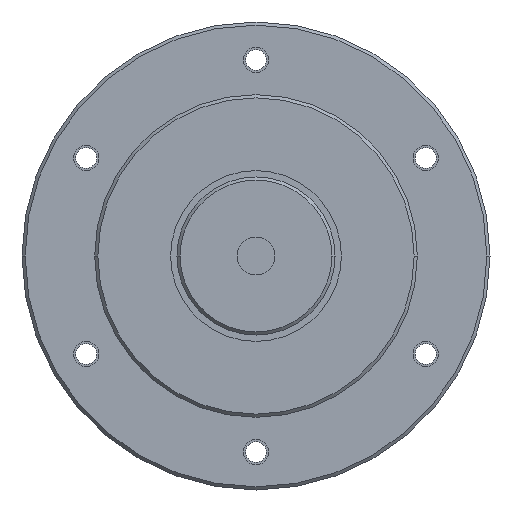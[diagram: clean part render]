
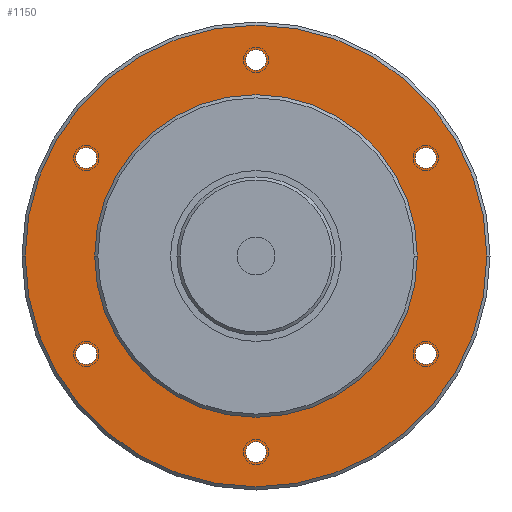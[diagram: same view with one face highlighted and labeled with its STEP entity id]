
A CAD part, front view. The second image highlights one B-rep face of the part: STEP entity #1150.
In plain terms, the highlighted planar face has unit normal (0, -1, 0).
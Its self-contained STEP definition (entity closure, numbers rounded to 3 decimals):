
#173=CARTESIAN_POINT('',(0.,33.1,0.));
#174=DIRECTION('',(0.,-1.,0.));
#175=DIRECTION('',(1.,0.,0.));
#176=AXIS2_PLACEMENT_3D('',#173,#174,#175);
#178=CARTESIAN_POINT('',(0.,33.1,0.));
#179=DIRECTION('',(0.,1.,0.));
#180=DIRECTION('',(1.,0.,0.));
#181=AXIS2_PLACEMENT_3D('',#178,#179,#180);
#183=CARTESIAN_POINT('',(0.,33.1,-31.));
#184=DIRECTION('',(0.,1.,0.));
#185=DIRECTION('',(-1.,0.,0.));
#186=AXIS2_PLACEMENT_3D('',#183,#184,#185);
#188=CARTESIAN_POINT('',(0.,33.1,-31.));
#189=DIRECTION('',(0.,1.,0.));
#190=DIRECTION('',(1.,0.,0.));
#191=AXIS2_PLACEMENT_3D('',#188,#189,#190);
#193=CARTESIAN_POINT('',(26.847,33.1,-15.5));
#194=DIRECTION('',(0.,1.,0.));
#195=DIRECTION('',(0.5,0.,0.866));
#196=AXIS2_PLACEMENT_3D('',#193,#194,#195);
#198=CARTESIAN_POINT('',(26.847,33.1,-15.5));
#199=DIRECTION('',(0.,1.,0.));
#200=DIRECTION('',(-0.5,0.,-0.866));
#201=AXIS2_PLACEMENT_3D('',#198,#199,#200);
#203=CARTESIAN_POINT('',(26.847,33.1,15.5));
#204=DIRECTION('',(0.,1.,0.));
#205=DIRECTION('',(-0.5,0.,0.866));
#206=AXIS2_PLACEMENT_3D('',#203,#204,#205);
#208=CARTESIAN_POINT('',(26.847,33.1,15.5));
#209=DIRECTION('',(0.,1.,0.));
#210=DIRECTION('',(0.5,0.,-0.866));
#211=AXIS2_PLACEMENT_3D('',#208,#209,#210);
#213=CARTESIAN_POINT('',(0.,33.1,31.));
#214=DIRECTION('',(0.,1.,0.));
#215=DIRECTION('',(-1.,0.,0.));
#216=AXIS2_PLACEMENT_3D('',#213,#214,#215);
#218=CARTESIAN_POINT('',(0.,33.1,31.));
#219=DIRECTION('',(0.,1.,0.));
#220=DIRECTION('',(1.,0.,0.));
#221=AXIS2_PLACEMENT_3D('',#218,#219,#220);
#223=CARTESIAN_POINT('',(-26.847,33.1,15.5));
#224=DIRECTION('',(0.,1.,0.));
#225=DIRECTION('',(-0.5,0.,-0.866));
#226=AXIS2_PLACEMENT_3D('',#223,#224,#225);
#228=CARTESIAN_POINT('',(-26.847,33.1,15.5));
#229=DIRECTION('',(0.,1.,0.));
#230=DIRECTION('',(0.5,0.,0.866));
#231=AXIS2_PLACEMENT_3D('',#228,#229,#230);
#233=CARTESIAN_POINT('',(-26.847,33.1,-15.5));
#234=DIRECTION('',(0.,1.,0.));
#235=DIRECTION('',(0.5,0.,-0.866));
#236=AXIS2_PLACEMENT_3D('',#233,#234,#235);
#238=CARTESIAN_POINT('',(-26.847,33.1,-15.5));
#239=DIRECTION('',(0.,1.,0.));
#240=DIRECTION('',(-0.5,0.,0.866));
#241=AXIS2_PLACEMENT_3D('',#238,#239,#240);
#243=CARTESIAN_POINT('',(0.,33.1,0.));
#244=DIRECTION('',(0.,1.,0.));
#245=DIRECTION('',(1.,0.,0.));
#246=AXIS2_PLACEMENT_3D('',#243,#244,#245);
#248=CARTESIAN_POINT('',(0.,33.1,0.));
#249=DIRECTION('',(0.,1.,0.));
#250=DIRECTION('',(-1.,0.,0.));
#251=AXIS2_PLACEMENT_3D('',#248,#249,#250);
#665=CARTESIAN_POINT('',(25.5,33.1,0.));
#666=CARTESIAN_POINT('',(-25.5,33.1,0.));
#667=VERTEX_POINT('',#665);
#668=VERTEX_POINT('',#666);
#669=CARTESIAN_POINT('',(-1.65,33.1,-31.));
#670=CARTESIAN_POINT('',(1.65,33.1,-31.));
#671=VERTEX_POINT('',#669);
#672=VERTEX_POINT('',#670);
#677=CARTESIAN_POINT('',(27.672,33.1,-14.071));
#678=CARTESIAN_POINT('',(26.022,33.1,-16.929));
#679=VERTEX_POINT('',#677);
#680=VERTEX_POINT('',#678);
#685=CARTESIAN_POINT('',(26.022,33.1,16.929));
#686=CARTESIAN_POINT('',(27.672,33.1,14.071));
#687=VERTEX_POINT('',#685);
#688=VERTEX_POINT('',#686);
#693=CARTESIAN_POINT('',(-1.65,33.1,31.));
#694=CARTESIAN_POINT('',(1.65,33.1,31.));
#695=VERTEX_POINT('',#693);
#696=VERTEX_POINT('',#694);
#701=CARTESIAN_POINT('',(-27.672,33.1,14.071));
#702=CARTESIAN_POINT('',(-26.022,33.1,16.929));
#703=VERTEX_POINT('',#701);
#704=VERTEX_POINT('',#702);
#709=CARTESIAN_POINT('',(-26.022,33.1,-16.929));
#710=CARTESIAN_POINT('',(-27.672,33.1,-14.071));
#711=VERTEX_POINT('',#709);
#712=VERTEX_POINT('',#710);
#797=CARTESIAN_POINT('',(36.5,33.1,0.));
#798=CARTESIAN_POINT('',(-36.5,33.1,0.));
#799=VERTEX_POINT('',#797);
#800=VERTEX_POINT('',#798);
#1099=CARTESIAN_POINT('',(0.,33.1,0.));
#1100=DIRECTION('',(0.,-1.,0.));
#1101=DIRECTION('',(-1.,0.,0.));
#1102=AXIS2_PLACEMENT_3D('',#1099,#1100,#1101);
#1103=PLANE('',#1102);
#1105=ORIENTED_EDGE('',*,*,#1104,.T.);
#1107=ORIENTED_EDGE('',*,*,#1106,.T.);
#1108=EDGE_LOOP('',(#1105,#1107));
#1109=FACE_OUTER_BOUND('',#1108,.F.);
#1111=ORIENTED_EDGE('',*,*,#1110,.F.);
#1113=ORIENTED_EDGE('',*,*,#1112,.F.);
#1114=EDGE_LOOP('',(#1111,#1113));
#1115=FACE_BOUND('',#1114,.F.);
#1117=ORIENTED_EDGE('',*,*,#1116,.F.);
#1119=ORIENTED_EDGE('',*,*,#1118,.F.);
#1120=EDGE_LOOP('',(#1117,#1119));
#1121=FACE_BOUND('',#1120,.F.);
#1123=ORIENTED_EDGE('',*,*,#1122,.F.);
#1125=ORIENTED_EDGE('',*,*,#1124,.F.);
#1126=EDGE_LOOP('',(#1123,#1125));
#1127=FACE_BOUND('',#1126,.F.);
#1129=ORIENTED_EDGE('',*,*,#1128,.F.);
#1131=ORIENTED_EDGE('',*,*,#1130,.F.);
#1132=EDGE_LOOP('',(#1129,#1131));
#1133=FACE_BOUND('',#1132,.F.);
#1135=ORIENTED_EDGE('',*,*,#1134,.F.);
#1137=ORIENTED_EDGE('',*,*,#1136,.F.);
#1138=EDGE_LOOP('',(#1135,#1137));
#1139=FACE_BOUND('',#1138,.F.);
#1141=ORIENTED_EDGE('',*,*,#1140,.F.);
#1143=ORIENTED_EDGE('',*,*,#1142,.F.);
#1144=EDGE_LOOP('',(#1141,#1143));
#1145=FACE_BOUND('',#1144,.F.);
#1146=ORIENTED_EDGE('',*,*,#1066,.T.);
#1147=ORIENTED_EDGE('',*,*,#1081,.F.);
#1148=EDGE_LOOP('',(#1146,#1147));
#1149=FACE_BOUND('',#1148,.F.);
#1150=ADVANCED_FACE('',(#1109,#1115,#1121,#1127,#1133,#1139,#1145,#1149),#1103,
.T.);
#177=CIRCLE('',#176,25.5);
#182=CIRCLE('',#181,25.5);
#187=CIRCLE('',#186,1.65);
#192=CIRCLE('',#191,1.65);
#197=CIRCLE('',#196,1.65);
#202=CIRCLE('',#201,1.65);
#207=CIRCLE('',#206,1.65);
#212=CIRCLE('',#211,1.65);
#217=CIRCLE('',#216,1.65);
#222=CIRCLE('',#221,1.65);
#227=CIRCLE('',#226,1.65);
#232=CIRCLE('',#231,1.65);
#237=CIRCLE('',#236,1.65);
#242=CIRCLE('',#241,1.65);
#247=CIRCLE('',#246,36.5);
#252=CIRCLE('',#251,36.5);
#1066=EDGE_CURVE('',#667,#668,#177,.T.);
#1081=EDGE_CURVE('',#667,#668,#182,.T.);
#1104=EDGE_CURVE('',#799,#800,#247,.T.);
#1106=EDGE_CURVE('',#800,#799,#252,.T.);
#1110=EDGE_CURVE('',#671,#672,#187,.T.);
#1112=EDGE_CURVE('',#672,#671,#192,.T.);
#1116=EDGE_CURVE('',#679,#680,#197,.T.);
#1118=EDGE_CURVE('',#680,#679,#202,.T.);
#1122=EDGE_CURVE('',#687,#688,#207,.T.);
#1124=EDGE_CURVE('',#688,#687,#212,.T.);
#1128=EDGE_CURVE('',#695,#696,#217,.T.);
#1130=EDGE_CURVE('',#696,#695,#222,.T.);
#1134=EDGE_CURVE('',#703,#704,#227,.T.);
#1136=EDGE_CURVE('',#704,#703,#232,.T.);
#1140=EDGE_CURVE('',#711,#712,#237,.T.);
#1142=EDGE_CURVE('',#712,#711,#242,.T.);
